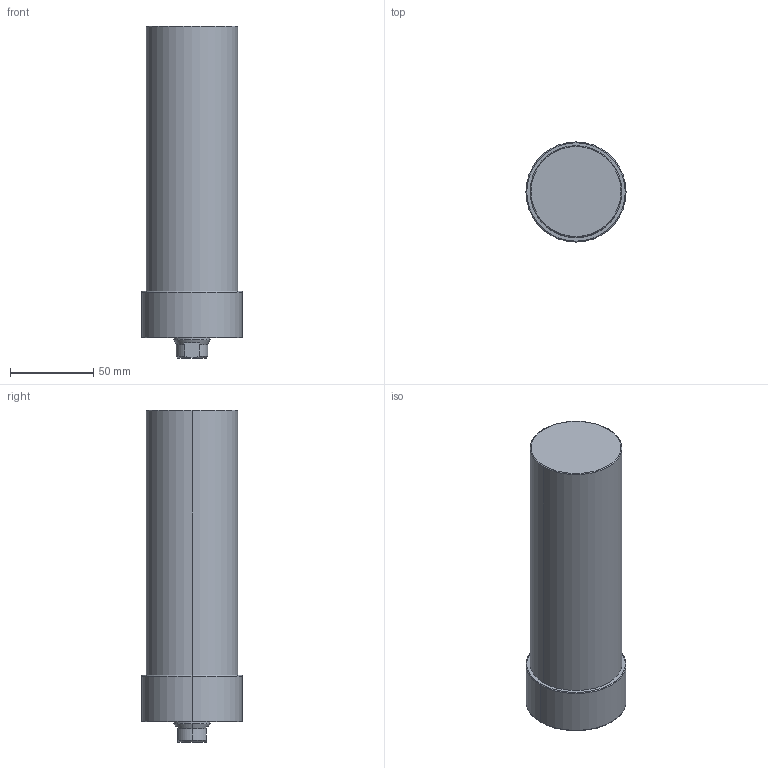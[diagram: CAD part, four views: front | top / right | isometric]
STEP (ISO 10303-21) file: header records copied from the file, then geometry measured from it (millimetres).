
FILE_DESCRIPTION (( 'STEP AP203' ), '1' );
FILE_NAME ('CLLU-055GA-130.STEP', '2020-01-06T07:09:45', ( '' ), ( '' ), 'SwSTEP 2.0', 'SolidWorks 2015', '' );
FILE_SCHEMA (( 'CONFIG_CONTROL_DESIGN' ));
Length unit declared in the file: millimetre
Products named in the file (1): CLLU-055GA-130
Bounding box: 60 x 60 x 199 mm (x, y, z)
Volume: 457257.9 mm3; surface area: 40795.9 mm2
Topology: 1 solids, 1 shells, 64 faces, 143 edges, 80 vertices
Faces by surface type: cone 25, cylinder 23, plane 10, torus 6
Entity records: 1805 total; most frequent: DIRECTION 330, CARTESIAN_POINT 318, ORIENTED_EDGE 266, AXIS2_PLACEMENT_3D 140, EDGE_CURVE 133, VERTEX_POINT 80, CIRCLE 75, EDGE_LOOP 73
